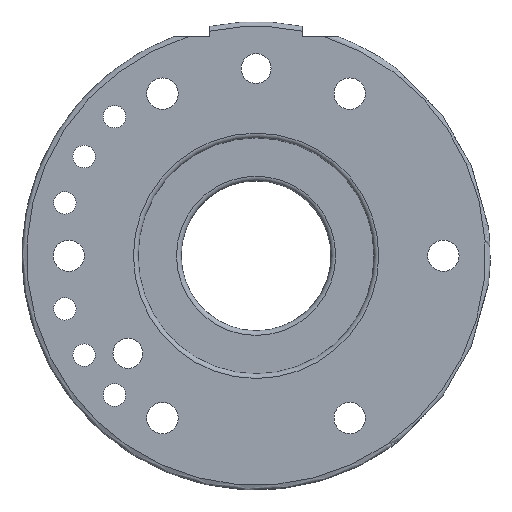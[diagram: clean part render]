
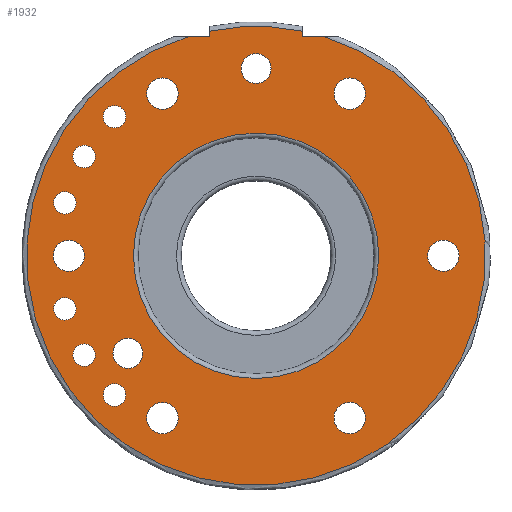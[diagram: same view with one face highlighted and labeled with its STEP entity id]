
A CAD part, front view. The second image highlights one B-rep face of the part: STEP entity #1932.
In plain terms, the highlighted planar face has unit normal (0, -1, 0).
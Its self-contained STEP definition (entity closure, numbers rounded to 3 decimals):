
#20=FACE_BOUND('',#399,.T.);
#21=FACE_BOUND('',#400,.T.);
#22=FACE_BOUND('',#401,.T.);
#23=FACE_BOUND('',#402,.T.);
#24=FACE_BOUND('',#403,.T.);
#25=FACE_BOUND('',#404,.T.);
#26=FACE_BOUND('',#405,.T.);
#27=FACE_BOUND('',#406,.T.);
#28=FACE_BOUND('',#407,.T.);
#29=FACE_BOUND('',#408,.T.);
#30=FACE_BOUND('',#409,.T.);
#31=FACE_BOUND('',#410,.T.);
#32=FACE_BOUND('',#411,.T.);
#33=FACE_BOUND('',#412,.T.);
#34=FACE_BOUND('',#413,.T.);
#148=CIRCLE('',#2063,61.25);
#158=CIRCLE('',#2078,32.75);
#163=CIRCLE('',#2083,32.75);
#164=CIRCLE('',#2085,61.25);
#165=CIRCLE('',#2086,4.188);
#166=CIRCLE('',#2087,4.188);
#167=CIRCLE('',#2088,4.188);
#168=CIRCLE('',#2089,4.188);
#169=CIRCLE('',#2090,4.188);
#170=CIRCLE('',#2091,4.188);
#171=CIRCLE('',#2092,3.);
#172=CIRCLE('',#2093,3.);
#173=CIRCLE('',#2094,3.);
#174=CIRCLE('',#2095,3.);
#175=CIRCLE('',#2096,3.);
#176=CIRCLE('',#2097,3.);
#177=CIRCLE('',#2098,4.);
#178=CIRCLE('',#2099,4.);
#179=CIRCLE('',#2100,4.);
#302=FACE_OUTER_BOUND('',#398,.T.);
#398=EDGE_LOOP('',(#1400,#1401,#1402,#1403,#1404,#1405));
#399=EDGE_LOOP('',(#1406));
#400=EDGE_LOOP('',(#1407));
#401=EDGE_LOOP('',(#1408));
#402=EDGE_LOOP('',(#1409));
#403=EDGE_LOOP('',(#1410));
#404=EDGE_LOOP('',(#1411));
#405=EDGE_LOOP('',(#1412));
#406=EDGE_LOOP('',(#1413));
#407=EDGE_LOOP('',(#1414));
#408=EDGE_LOOP('',(#1415));
#409=EDGE_LOOP('',(#1416));
#410=EDGE_LOOP('',(#1417));
#411=EDGE_LOOP('',(#1418,#1419));
#412=EDGE_LOOP('',(#1420));
#413=EDGE_LOOP('',(#1421,#1422));
#538=LINE('',#3617,#621);
#539=LINE('',#3621,#622);
#540=LINE('',#3622,#623);
#541=LINE('',#3623,#624);
#621=VECTOR('',#2417,10.);
#622=VECTOR('',#2420,10.);
#623=VECTOR('',#2421,10.);
#624=VECTOR('',#2422,10.);
#803=VERTEX_POINT('',#3491);
#804=VERTEX_POINT('',#3504);
#814=VERTEX_POINT('',#3603);
#815=VERTEX_POINT('',#3604);
#819=VERTEX_POINT('',#3615);
#820=VERTEX_POINT('',#3616);
#821=VERTEX_POINT('',#3618);
#822=VERTEX_POINT('',#3620);
#823=VERTEX_POINT('',#3624);
#824=VERTEX_POINT('',#3626);
#825=VERTEX_POINT('',#3628);
#826=VERTEX_POINT('',#3630);
#827=VERTEX_POINT('',#3632);
#828=VERTEX_POINT('',#3634);
#829=VERTEX_POINT('',#3636);
#830=VERTEX_POINT('',#3638);
#831=VERTEX_POINT('',#3640);
#832=VERTEX_POINT('',#3642);
#833=VERTEX_POINT('',#3644);
#834=VERTEX_POINT('',#3646);
#835=VERTEX_POINT('',#3648);
#836=VERTEX_POINT('',#3649);
#837=VERTEX_POINT('',#3652);
#1032=EDGE_CURVE('',#803,#804,#148,.T.);
#1047=EDGE_CURVE('',#814,#815,#158,.T.);
#1052=EDGE_CURVE('',#815,#814,#163,.T.);
#1053=EDGE_CURVE('',#819,#820,#538,.T.);
#1054=EDGE_CURVE('',#821,#820,#164,.T.);
#1055=EDGE_CURVE('',#821,#822,#539,.T.);
#1056=EDGE_CURVE('',#822,#804,#540,.T.);
#1057=EDGE_CURVE('',#803,#819,#541,.T.);
#1058=EDGE_CURVE('',#823,#823,#165,.T.);
#1059=EDGE_CURVE('',#824,#824,#166,.T.);
#1060=EDGE_CURVE('',#825,#825,#167,.T.);
#1061=EDGE_CURVE('',#826,#826,#168,.T.);
#1062=EDGE_CURVE('',#827,#827,#169,.T.);
#1063=EDGE_CURVE('',#828,#828,#170,.T.);
#1064=EDGE_CURVE('',#829,#829,#171,.T.);
#1065=EDGE_CURVE('',#830,#830,#172,.T.);
#1066=EDGE_CURVE('',#831,#831,#173,.T.);
#1067=EDGE_CURVE('',#832,#832,#174,.T.);
#1068=EDGE_CURVE('',#833,#833,#175,.T.);
#1069=EDGE_CURVE('',#834,#834,#176,.T.);
#1070=EDGE_CURVE('',#835,#836,#177,.T.);
#1071=EDGE_CURVE('',#836,#835,#178,.T.);
#1072=EDGE_CURVE('',#837,#837,#179,.T.);
#1400=ORIENTED_EDGE('',*,*,#1053,.T.);
#1401=ORIENTED_EDGE('',*,*,#1054,.F.);
#1402=ORIENTED_EDGE('',*,*,#1055,.T.);
#1403=ORIENTED_EDGE('',*,*,#1056,.T.);
#1404=ORIENTED_EDGE('',*,*,#1032,.F.);
#1405=ORIENTED_EDGE('',*,*,#1057,.T.);
#1406=ORIENTED_EDGE('',*,*,#1058,.T.);
#1407=ORIENTED_EDGE('',*,*,#1059,.T.);
#1408=ORIENTED_EDGE('',*,*,#1060,.T.);
#1409=ORIENTED_EDGE('',*,*,#1061,.T.);
#1410=ORIENTED_EDGE('',*,*,#1062,.T.);
#1411=ORIENTED_EDGE('',*,*,#1063,.T.);
#1412=ORIENTED_EDGE('',*,*,#1064,.T.);
#1413=ORIENTED_EDGE('',*,*,#1065,.T.);
#1414=ORIENTED_EDGE('',*,*,#1066,.T.);
#1415=ORIENTED_EDGE('',*,*,#1067,.T.);
#1416=ORIENTED_EDGE('',*,*,#1068,.T.);
#1417=ORIENTED_EDGE('',*,*,#1069,.T.);
#1418=ORIENTED_EDGE('',*,*,#1070,.T.);
#1419=ORIENTED_EDGE('',*,*,#1071,.T.);
#1420=ORIENTED_EDGE('',*,*,#1072,.T.);
#1421=ORIENTED_EDGE('',*,*,#1047,.F.);
#1422=ORIENTED_EDGE('',*,*,#1052,.F.);
#1797=PLANE('',#2084);
#1932=ADVANCED_FACE('',(#302,#20,#21,#22,#23,#24,#25,#26,#27,#28,#29,#30,
#31,#32,#33,#34),#1797,.T.);
#2063=AXIS2_PLACEMENT_3D('',#3505,#2371,#2372);
#2078=AXIS2_PLACEMENT_3D('',#3605,#2403,#2404);
#2083=AXIS2_PLACEMENT_3D('',#3613,#2413,#2414);
#2084=AXIS2_PLACEMENT_3D('',#3614,#2415,#2416);
#2085=AXIS2_PLACEMENT_3D('',#3619,#2418,#2419);
#2086=AXIS2_PLACEMENT_3D('',#3625,#2423,#2424);
#2087=AXIS2_PLACEMENT_3D('',#3627,#2425,#2426);
#2088=AXIS2_PLACEMENT_3D('',#3629,#2427,#2428);
#2089=AXIS2_PLACEMENT_3D('',#3631,#2429,#2430);
#2090=AXIS2_PLACEMENT_3D('',#3633,#2431,#2432);
#2091=AXIS2_PLACEMENT_3D('',#3635,#2433,#2434);
#2092=AXIS2_PLACEMENT_3D('',#3637,#2435,#2436);
#2093=AXIS2_PLACEMENT_3D('',#3639,#2437,#2438);
#2094=AXIS2_PLACEMENT_3D('',#3641,#2439,#2440);
#2095=AXIS2_PLACEMENT_3D('',#3643,#2441,#2442);
#2096=AXIS2_PLACEMENT_3D('',#3645,#2443,#2444);
#2097=AXIS2_PLACEMENT_3D('',#3647,#2445,#2446);
#2098=AXIS2_PLACEMENT_3D('',#3650,#2447,#2448);
#2099=AXIS2_PLACEMENT_3D('',#3651,#2449,#2450);
#2100=AXIS2_PLACEMENT_3D('',#3653,#2451,#2452);
#2371=DIRECTION('center_axis',(0.,1.,0.));
#2372=DIRECTION('ref_axis',(1.,0.,0.));
#2403=DIRECTION('center_axis',(0.,-1.,0.));
#2404=DIRECTION('ref_axis',(1.,0.,0.));
#2413=DIRECTION('center_axis',(0.,-1.,0.));
#2414=DIRECTION('ref_axis',(1.,0.,0.));
#2415=DIRECTION('center_axis',(0.,-1.,0.));
#2416=DIRECTION('ref_axis',(0.,0.,-1.));
#2417=DIRECTION('',(0.,0.,1.));
#2418=DIRECTION('center_axis',(0.,1.,0.));
#2419=DIRECTION('ref_axis',(1.,0.,0.));
#2420=DIRECTION('',(0.,0.,-1.));
#2421=DIRECTION('',(-1.,0.,0.));
#2422=DIRECTION('',(-1.,0.,0.));
#2423=DIRECTION('center_axis',(0.,1.,0.));
#2424=DIRECTION('ref_axis',(1.,0.,0.));
#2425=DIRECTION('center_axis',(0.,1.,0.));
#2426=DIRECTION('ref_axis',(1.,0.,0.));
#2427=DIRECTION('center_axis',(0.,1.,0.));
#2428=DIRECTION('ref_axis',(1.,0.,0.));
#2429=DIRECTION('center_axis',(0.,1.,0.));
#2430=DIRECTION('ref_axis',(1.,0.,0.));
#2431=DIRECTION('center_axis',(0.,1.,0.));
#2432=DIRECTION('ref_axis',(1.,0.,0.));
#2433=DIRECTION('center_axis',(0.,1.,0.));
#2434=DIRECTION('ref_axis',(1.,0.,0.));
#2435=DIRECTION('center_axis',(0.,1.,0.));
#2436=DIRECTION('ref_axis',(1.,0.,0.));
#2437=DIRECTION('center_axis',(0.,1.,0.));
#2438=DIRECTION('ref_axis',(1.,0.,0.));
#2439=DIRECTION('center_axis',(0.,1.,0.));
#2440=DIRECTION('ref_axis',(1.,0.,0.));
#2441=DIRECTION('center_axis',(0.,1.,0.));
#2442=DIRECTION('ref_axis',(1.,0.,0.));
#2443=DIRECTION('center_axis',(0.,1.,0.));
#2444=DIRECTION('ref_axis',(1.,0.,0.));
#2445=DIRECTION('center_axis',(0.,1.,0.));
#2446=DIRECTION('ref_axis',(1.,0.,0.));
#2447=DIRECTION('center_axis',(0.,1.,0.));
#2448=DIRECTION('ref_axis',(1.,0.,0.));
#2449=DIRECTION('center_axis',(0.,1.,0.));
#2450=DIRECTION('ref_axis',(1.,0.,0.));
#2451=DIRECTION('center_axis',(0.,1.,0.));
#2452=DIRECTION('ref_axis',(1.,0.,0.));
#3491=CARTESIAN_POINT('',(18.147,0.,58.5));
#3504=CARTESIAN_POINT('',(-18.147,0.,58.5));
#3505=CARTESIAN_POINT('Origin',(0.,0.,
0.));
#3603=CARTESIAN_POINT('',(-32.75,0.,0.));
#3604=CARTESIAN_POINT('',(0.,0.,-32.75));
#3605=CARTESIAN_POINT('Origin',(0.,0.,
0.));
#3613=CARTESIAN_POINT('Origin',(0.,0.,
0.));
#3614=CARTESIAN_POINT('Origin',(-47.,0.,0.));
#3615=CARTESIAN_POINT('',(12.5,0.,58.5));
#3616=CARTESIAN_POINT('',(12.5,0.,59.961));
#3617=CARTESIAN_POINT('',(12.5,0.,31.25));
#3618=CARTESIAN_POINT('',(-12.5,0.,59.961));
#3619=CARTESIAN_POINT('Origin',(0.,0.,
0.));
#3620=CARTESIAN_POINT('',(-12.5,0.,58.5));
#3621=CARTESIAN_POINT('',(-12.5,0.,31.25));
#3622=CARTESIAN_POINT('',(-35.012,0.,58.5));
#3623=CARTESIAN_POINT('',(-11.988,0.,58.5));
#3624=CARTESIAN_POINT('',(20.812,0.,-43.301));
#3625=CARTESIAN_POINT('Origin',(25.,0.,-43.301));
#3626=CARTESIAN_POINT('',(-29.188,0.,-43.301));
#3627=CARTESIAN_POINT('Origin',(-25.,0.,-43.301));
#3628=CARTESIAN_POINT('',(-54.188,0.,0.));
#3629=CARTESIAN_POINT('Origin',(-50.,0.,0.));
#3630=CARTESIAN_POINT('',(-29.188,0.,43.301));
#3631=CARTESIAN_POINT('Origin',(-25.,0.,43.301));
#3632=CARTESIAN_POINT('',(45.812,0.,0.));
#3633=CARTESIAN_POINT('Origin',(50.,0.,0.));
#3634=CARTESIAN_POINT('',(20.812,0.,43.301));
#3635=CARTESIAN_POINT('Origin',(25.,0.,43.301));
#3636=CARTESIAN_POINT('',(-48.899,0.,-26.5));
#3637=CARTESIAN_POINT('Origin',(-45.899,0.,-26.5));
#3638=CARTESIAN_POINT('',(-54.072,0.,-14.164));
#3639=CARTESIAN_POINT('Origin',(-51.072,0.,-14.164));
#3640=CARTESIAN_POINT('',(-54.072,0.,14.164));
#3641=CARTESIAN_POINT('Origin',(-51.072,0.,14.164));
#3642=CARTESIAN_POINT('',(-40.802,0.,37.148));
#3643=CARTESIAN_POINT('Origin',(-37.802,0.,37.148));
#3644=CARTESIAN_POINT('',(-48.899,0.,26.5));
#3645=CARTESIAN_POINT('Origin',(-45.899,0.,26.5));
#3646=CARTESIAN_POINT('',(-40.802,0.,-37.148));
#3647=CARTESIAN_POINT('Origin',(-37.802,0.,-37.148));
#3648=CARTESIAN_POINT('',(4.,0.,50.));
#3649=CARTESIAN_POINT('',(-4.,0.,50.));
#3650=CARTESIAN_POINT('Origin',(0.,0.,50.));
#3651=CARTESIAN_POINT('Origin',(0.,0.,50.));
#3652=CARTESIAN_POINT('',(-38.228,0.,-26.028));
#3653=CARTESIAN_POINT('Origin',(-34.228,0.,-26.028));
